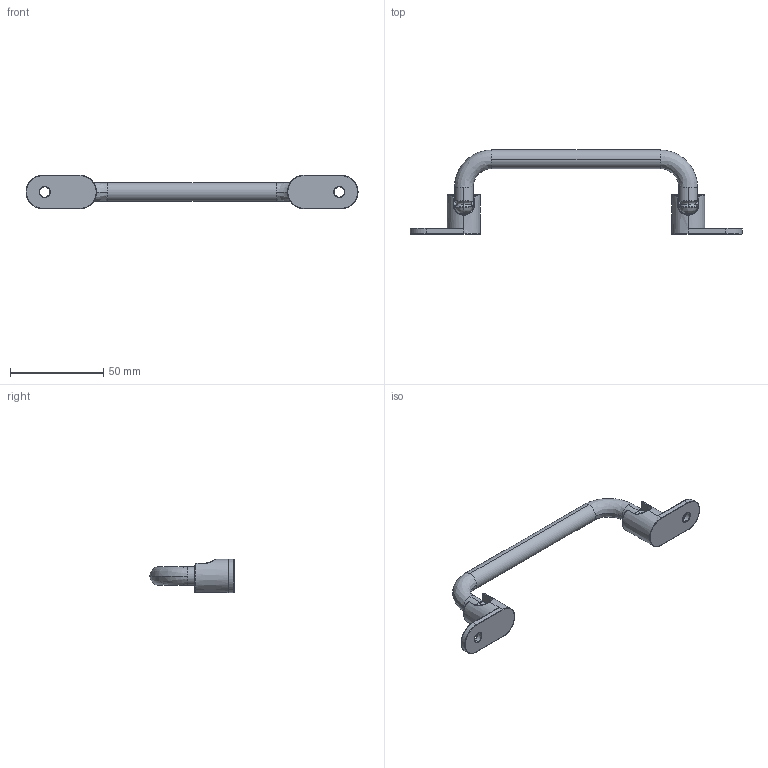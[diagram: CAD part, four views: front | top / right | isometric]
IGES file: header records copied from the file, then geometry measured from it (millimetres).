
Start section: SolidWorks IGES file using analytic representation for surfaces
Global section: file name: D:\D\由鑫國際內部資料\內部資料\3D圖檔\2017\HDS-501\HDS-501.IGS,15HSolidWorks; native system: 2010; preprocessor: SolidWorks 2010; author: Deathkiller; date: 170913.111128; units: millimetre
Bounding box: 177.6 x 45 x 17.8 mm (x, y, z)
Surface area: 10820.2 mm2 (no closed solid volume)
Topology: 0 solids, 0 shells, 144 faces, 1866 edges, 1840 vertices
Faces by surface type: bspline 84, revolution 60
